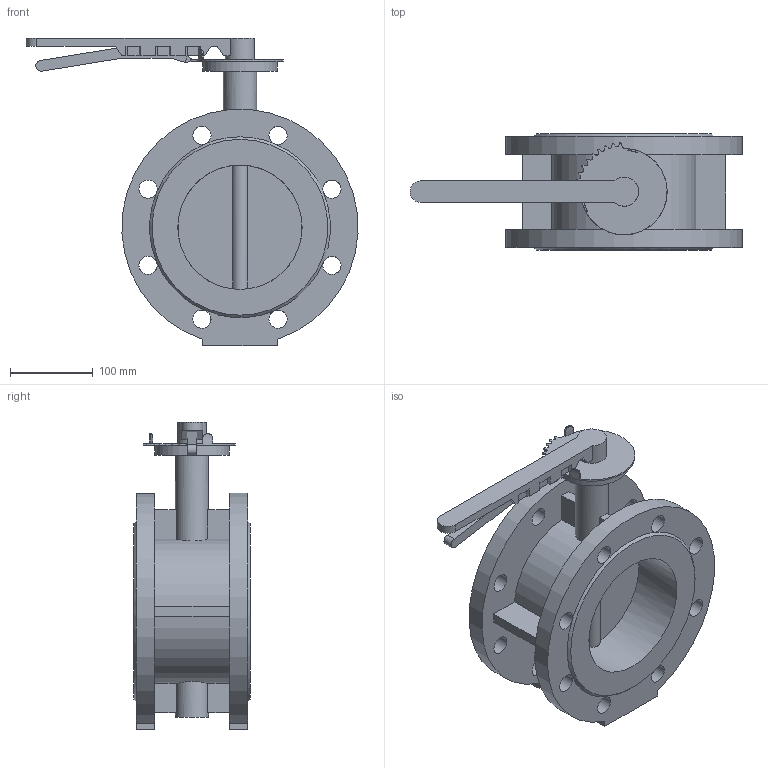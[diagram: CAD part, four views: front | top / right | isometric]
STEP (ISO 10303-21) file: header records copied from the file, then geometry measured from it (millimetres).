
FILE_DESCRIPTION(('STEP AP203'), '1');
FILE_NAME('Çàòâîð 021F.Y DN150 +ðóêîÿòêà', '', ('UNSPECIFIED'), ('UNSPECIFIED'), 'ASCON STEP Converter 1.6', 'ASCON Math Kernel', '');
FILE_SCHEMA(('CONFIG_CONTROL_DESIGN'));
Length unit declared in the file: millimetre
Bounding box: 400.3 x 140 x 371 mm (x, y, z)
Volume: 3291376.3 mm3; surface area: 457591.1 mm2
Topology: 1 solids, 1 shells, 189 faces, 555 edges, 362 vertices
Faces by surface type: plane 121, cylinder 66, cone 2
Full cylindrical faces by diameter (mm): 10 x4, 22 x16, 35 x1, 40 x2, 90 x1, 150 x2
Entity records: 8759 total; most frequent: CARTESIAN_POINT 2222, ORIENTED_EDGE 1022, DIRECTION 1017, EDGE_CURVE 511, VERTEX_POINT 354, AXIS2_PLACEMENT_3D 342, LINE 333, VECTOR 333
